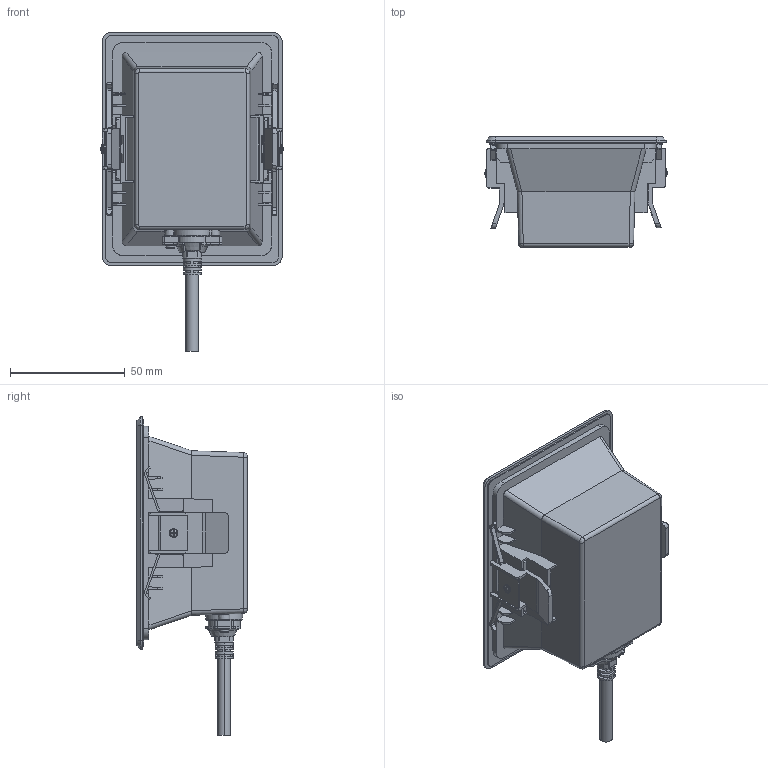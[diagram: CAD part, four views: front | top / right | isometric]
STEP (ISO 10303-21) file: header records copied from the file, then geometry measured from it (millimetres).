
FILE_DESCRIPTION((''),'2;1');
FILE_NAME('RT820_3D-DRAWING_ASM','2020-10-10T',('ASUS'),(''),'PRO/ENGINEER BY PARAMETRIC TECHNOLOGY CORPORATION, 2008380','PRO/ENGINEER BY PARAMETRIC TECHNOLOGY CORPORATION, 2008380','');
FILE_SCHEMA(('CONFIG_CONTROL_DESIGN'));
Length unit declared in the file: millimetre
Products named in the file (20): PRT0004; PRT0005; PRT0006; ASM0002_ASM; PRT0007; PRT0008; PRT0009; PRT0010; ASM0003_ASM; PRT0011; PRT0012; PRT0013; ASM0004_ASM; PRT0014; PRT0015; PRT0016; ASM0005_ASM; PRT0017; ASM0001_ASM; RT820_3D-DRAWING_ASM
Assembly tree (24 placements, depth 4):
  RT820_3D-DRAWING_ASM
    ASM0001_ASM
      PRT0004
      PRT0005
      ASM0002_ASM
        PRT0006
      ASM0003_ASM
        PRT0007
        PRT0008
        PRT0009
        PRT0010
      PRT0011
      PRT0012
      ASM0004_ASM
        PRT0013  x5
      ASM0005_ASM  x2
        PRT0014
        PRT0015
        PRT0016
      PRT0017
Bounding box: 79.45 x 48 x 138.95 mm (x, y, z)
Volume: 68692.3 mm3; surface area: 74649.8 mm2
Topology: 21 solids, 21 shells, 1141 faces, 3150 edges, 2072 vertices
Faces by surface type: plane 713, cylinder 285, bspline 52, torus 44, cone 29, extrusion 14, sphere 4
Entity records: 33689 total; most frequent: CARTESIAN_POINT 9072, ORIENTED_EDGE 5266, DIRECTION 4757, EDGE_CURVE 2633, VECTOR 1839, LINE 1825, VERTEX_POINT 1736, AXIS2_PLACEMENT_3D 1459
